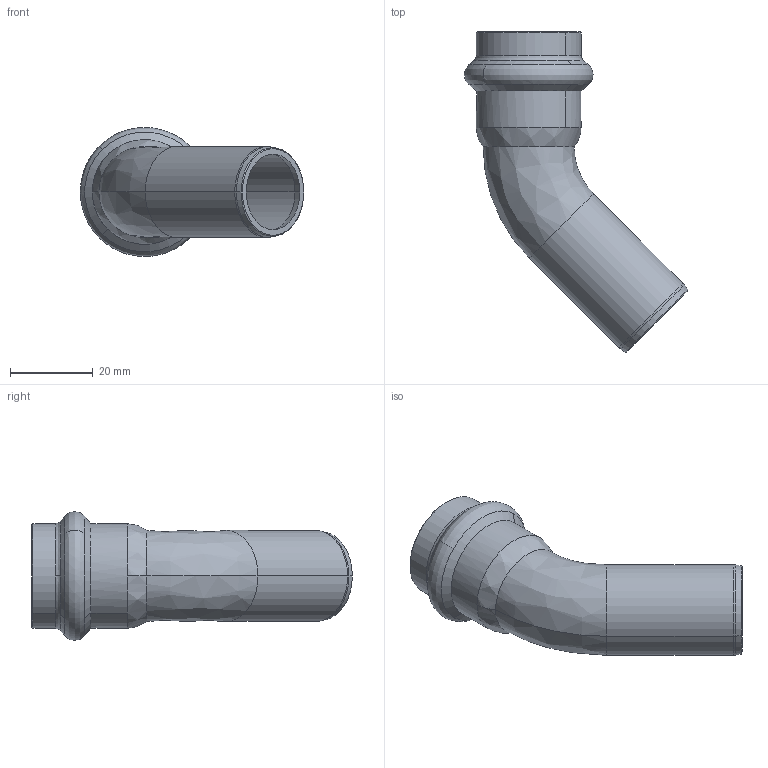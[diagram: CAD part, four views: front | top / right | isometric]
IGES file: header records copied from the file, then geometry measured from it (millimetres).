
Start section: Elysium IGES Interface
Global section: file name: C:\3d modellen sudo\C-Pr VP\SP8040V\8040VW22.igs; native system: CoCreate Modeling 17.00A  17-Jun-2010; preprocessor: CoCreate IGES_3D V2.2; author: Unknown; organization: Unknown; date: 20130129.144130; units: millimetre
Bounding box: 54.06 x 77.49 x 31.18 mm (x, y, z)
Volume: 9809 mm3; surface area: 11788.6 mm2
Topology: 1 solids, 1 shells, 52 faces, 122 edges, 74 vertices
Faces by surface type: bspline 52
